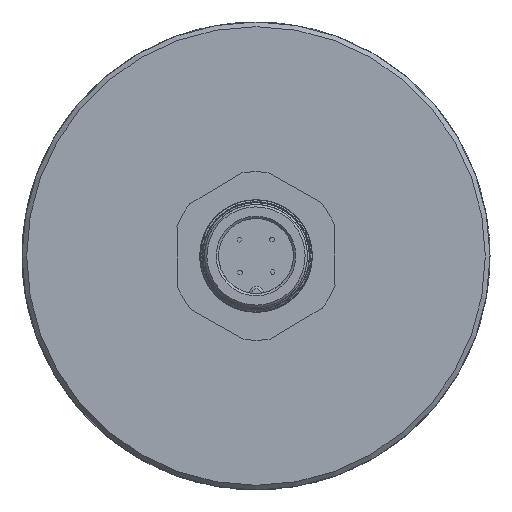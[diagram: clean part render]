
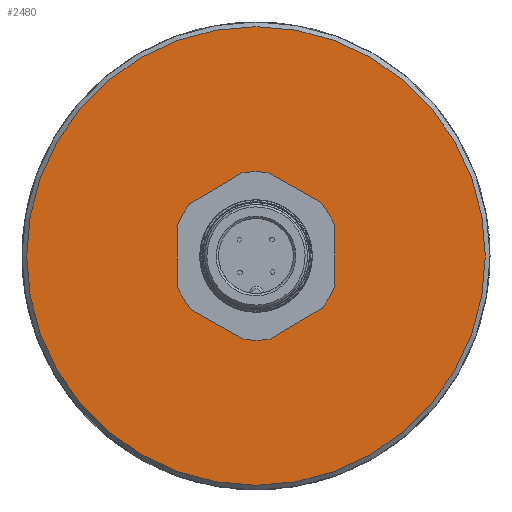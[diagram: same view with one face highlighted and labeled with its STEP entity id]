
A CAD part, left-side view. The second image highlights one B-rep face of the part: STEP entity #2480.
In plain terms, the highlighted planar face has unit normal (-1, 0, 0).
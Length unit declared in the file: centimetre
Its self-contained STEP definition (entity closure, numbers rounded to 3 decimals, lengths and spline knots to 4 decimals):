
#781=VERTEX_POINT('',#3308);
#788=VERTEX_POINT('',#3363);
#989=CIRCLE('',#2646,0.725);
#995=CIRCLE('',#2660,2.45);
#1079=EDGE_CURVE('',#781,#781,#989,.T.);
#1086=EDGE_CURVE('',#788,#788,#995,.T.);
#1433=ORIENTED_EDGE('',*,*,#1079,.T.);
#1434=ORIENTED_EDGE('',*,*,#1086,.F.);
#2056=EDGE_LOOP('',(#1433));
#2057=EDGE_LOOP('',(#1434));
#2278=FACE_BOUND('',#2056,.T.);
#2279=FACE_BOUND('',#2057,.T.);
#2480=ADVANCED_FACE('',(#2278,#2279),#14874,.T.);
#2646=AXIS2_PLACEMENT_3D('',#3307,#2859,#2860);
#2660=AXIS2_PLACEMENT_3D('',#3362,#2883,#2884);
#2664=AXIS2_PLACEMENT_3D('',#3519,#2895,$);
#2859=DIRECTION('',(1.,0.,0.));
#2860=DIRECTION('',(0.,0.,0.725));
#2883=DIRECTION('',(1.,0.,0.));
#2884=DIRECTION('',(0.,0.,2.45));
#2895=DIRECTION('',(-1.,0.,0.));
#3307=CARTESIAN_POINT('',(0.,0.,0.));
#3308=CARTESIAN_POINT('',(0.,0.,0.725));
#3362=CARTESIAN_POINT('',(0.,0.,0.));
#3363=CARTESIAN_POINT('',(0.,0.,-2.45));
#3519=CARTESIAN_POINT('',(0.,0.,-1.25));
#14874=PLANE('',#2664);
